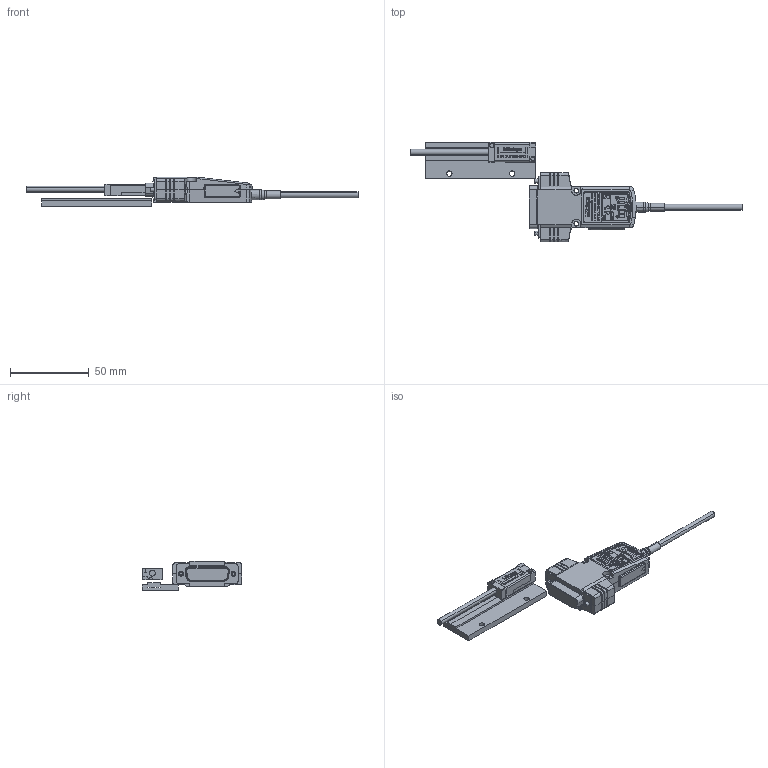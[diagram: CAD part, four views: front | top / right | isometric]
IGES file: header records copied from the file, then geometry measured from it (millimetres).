
Start section: Elysium IGES Interface
Global section: file name: 77H\\Utsu119s\kiyo_cad\data\3D\ST46EZA\HP掲載用_201708\ST46EZA-C\ST46EZA-50C.igs; native system: Creo Elements/Direct Modeling 18.1B  29-Sep-2012; preprocessor: Creo Element/Direct IGES_3D V2.2; author: Unknown; organization: Unknown; date: 20170913.155832; units: millimetre
Bounding box: 211 x 63.36 x 18.77 mm (x, y, z)
Volume: 10391.8 mm3; surface area: 18749.2 mm2
Topology: 3 solids, 5 shells, 2243 faces, 5983 edges, 3899 vertices
Faces by surface type: bspline 2243
